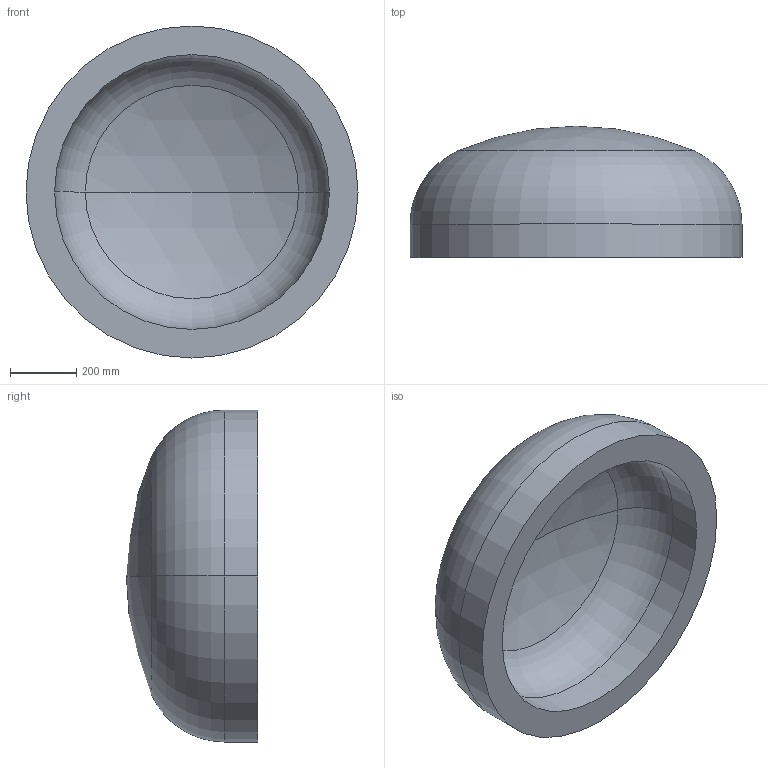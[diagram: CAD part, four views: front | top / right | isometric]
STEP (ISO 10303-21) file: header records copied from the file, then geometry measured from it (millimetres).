
FILE_DESCRIPTION (( 'STEP AP203' ), '1' );
FILE_NAME ('DIN 28013 Korbbogenform_-_Boden DIN 28013 - 1000 x 100 - I - s=86.step', '2016-07-01T08:55:06', ( '' ), ( '' ), 'SwSTEP 2.0', 'SolidWorks 2013', '' );
FILE_SCHEMA (( 'CONFIG_CONTROL_DESIGN' ));
Length unit declared in the file: millimetre
Products named in the file (1): DIN 28013 Korbbogenform_-_Boden DIN 28013 - 1000 x 100 - I - s=86
Bounding box: 1000 x 395.29 x 1000 mm (x, y, z)
Volume: 108824340.7 mm3; surface area: 2793230.1 mm2
Topology: 1 solids, 1 shells, 13 faces, 24 edges, 14 vertices
Faces by surface type: torus 4, cylinder 4, sphere 4, plane 1
Entity records: 407 total; most frequent: DIRECTION 72, CARTESIAN_POINT 52, ORIENTED_EDGE 48, AXIS2_PLACEMENT_3D 34, EDGE_CURVE 24, CIRCLE 20, VERTEX_POINT 14, EDGE_LOOP 14
